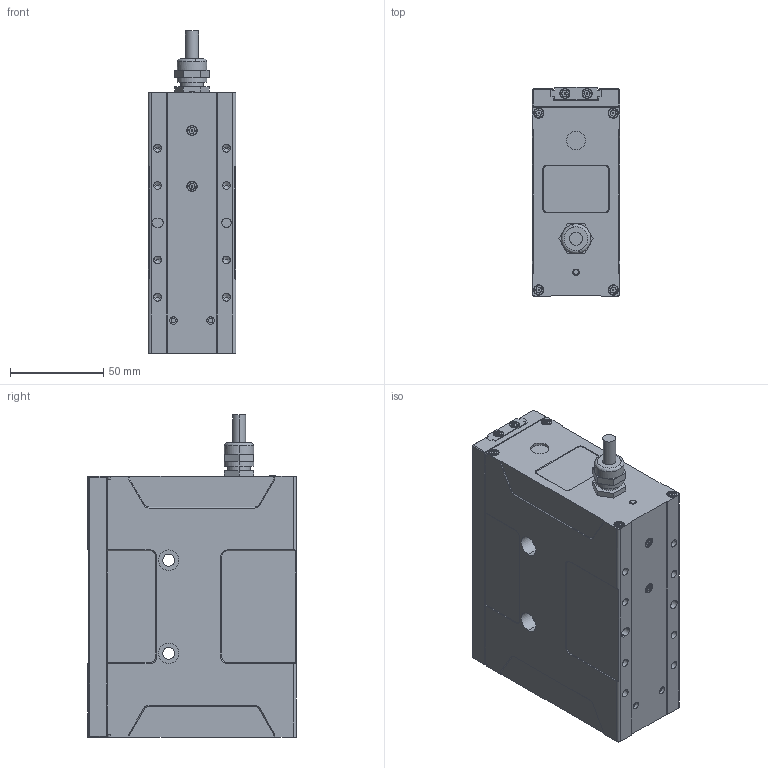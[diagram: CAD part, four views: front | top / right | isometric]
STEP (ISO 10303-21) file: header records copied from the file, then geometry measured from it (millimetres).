
FILE_DESCRIPTION (( 'STEP AP203' ), '1' );
FILE_NAME ('EFG-60-150（外发）.STEP', '2023-09-25T03:44:53', ( '' ), ( '' ), 'SwSTEP 2.0', 'SolidWorks 2020', '' );
FILE_SCHEMA (( 'CONFIG_CONTROL_DESIGN' ));
Length unit declared in the file: millimetre
Products named in the file (3): EFG-60-150（壳体）; EFG-60-150（外发）; EFG-60-150（手指）
Assembly tree (3 placements, depth 2):
  EFG-60-150（外发）
    EFG-60-150（壳体）
    EFG-60-150（手指）  x2
Bounding box: 47 x 112 x 173 mm (x, y, z)
Volume: 711515 mm3; surface area: 70728.6 mm2
Topology: 7 solids, 46 shells, 1175 faces, 2837 edges, 1803 vertices
Faces by surface type: plane 517, cylinder 468, cone 170, torus 18, bspline 2
Entity records: 28769 total; most frequent: DIRECTION 5224, CARTESIAN_POINT 4911, ORIENTED_EDGE 4624, EDGE_CURVE 2312, AXIS2_PLACEMENT_3D 1937, VERTEX_POINT 1500, LINE 1350, VECTOR 1350
